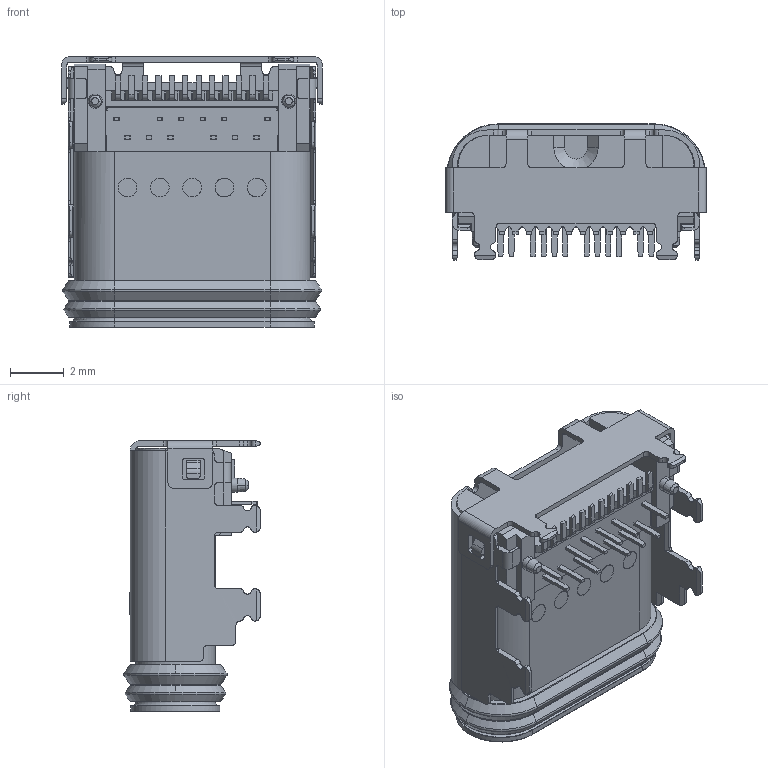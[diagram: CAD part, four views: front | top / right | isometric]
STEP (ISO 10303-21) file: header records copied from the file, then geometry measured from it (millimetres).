
FILE_DESCRIPTION (( 'STEP AP214' ), '1' );
FILE_NAME ('U5198-24PN10.5LF.STEP', '2026-05-28T07:41:31', ( '' ), ( '' ), 'SwSTEP 2.0', 'SolidWorks 2024', '' );
FILE_SCHEMA (( 'AUTOMOTIVE_DESIGN' ));
Length unit declared in the file: millimetre
Products named in the file (1): U5198-24PN10.5LF
Bounding box: 9.7 x 5.07 x 10.05 mm (x, y, z)
Surface area: 1090.7 mm2 (no closed solid volume)
Topology: 0 solids, 4 shells, 1391 faces, 3740 edges, 2399 vertices
Faces by surface type: plane 891, cylinder 388, cone 43, torus 40, bspline 29
Entity records: 46111 total; most frequent: CARTESIAN_POINT 11276, ORIENTED_EDGE 7480, DIRECTION 6863, EDGE_CURVE 3740, LINE 2651, VECTOR 2651, VERTEX_POINT 2399, AXIS2_PLACEMENT_3D 2106
